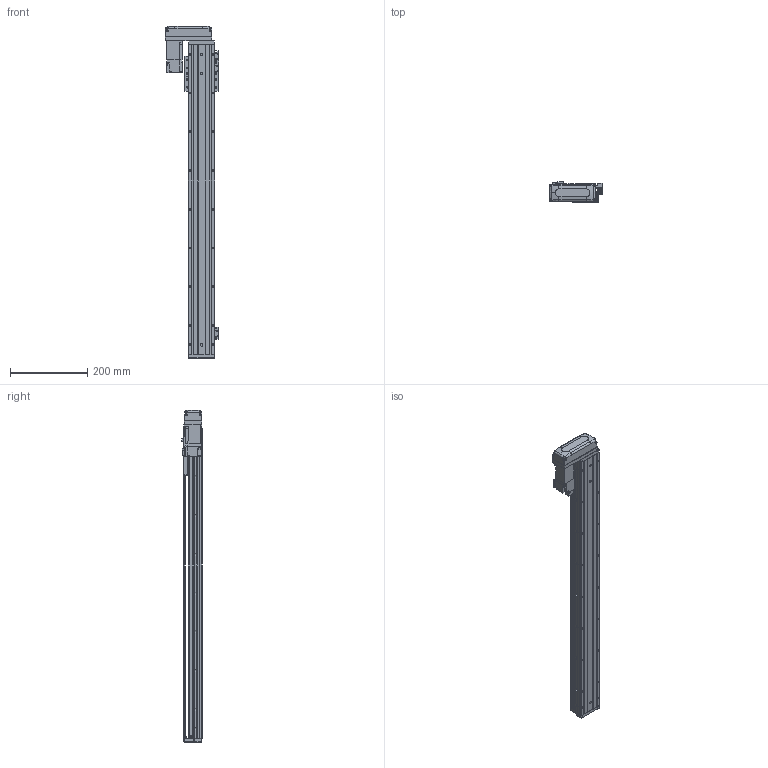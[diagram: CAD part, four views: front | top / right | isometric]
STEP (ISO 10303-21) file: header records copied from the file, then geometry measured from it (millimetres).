
FILE_DESCRIPTION (( 'STEP AP203' ), '1' );
FILE_NAME ('KTHAL60-650-BR-M10-C4L.step', '2022-03-19T08:45:17', ( '微软用户' ), ( '微软中国' ), 'SwSTEP 2.0', 'SolidWorks 2020', '' );
FILE_SCHEMA (( 'CONFIG_CONTROL_DESIGN' ));
Length unit declared in the file: millimetre
Products named in the file (18): GBT 70.3-M3℅6; CTHA60-016; EE_SX911P_R; HG-KR13（三菱）; KTHA60-001_800; CTHA60-017; CTHA60-015-2_CTHA60-015-2; KTHLA60-002; CTHA60-021; CTHA60-033; KTHA60-004; GBT 70.1-M4×16; GBT 70.1-M3×15; KTHA60-005; GBT77-2000M3-3; KTHAL60-650-BR-M10-C4L; GB¨uT 70.2-M3¡Á5_M3¡Á6; GBT 70.1-M3℅6
Assembly tree (51 placements, depth 2):
  KTHAL60-650-BR-M10-C4L
    KTHA60-001_800
    KTHLA60-002
    KTHA60-004
    KTHA60-005
    GB¨uT 70.2-M3¡Á5_M3¡Á6  x5
    GBT 70.3-M3℅6  x4
    EE_SX911P_R  x3
    CTHA60-017  x3
    CTHA60-021  x2
    GBT 70.1-M4×16  x10
    GBT77-2000M3-3  x6
    GBT 70.1-M3℅6  x6
    CTHA60-016
    HG-KR13（三菱）
    CTHA60-015-2_CTHA60-015-2
    CTHA60-033
    GBT 70.1-M3×15  x4
Bounding box: 137.82 x 52.3 x 857 mm (x, y, z)
Volume: 1779933.2 mm3; surface area: 440205 mm2
Topology: 54 solids, 54 shells, 2335 faces, 5555 edges, 3413 vertices
Faces by surface type: plane 1336, cylinder 571, cone 290, torus 98, bspline 26, sphere 14
Entity records: 41285 total; most frequent: CARTESIAN_POINT 7784, DIRECTION 6463, ORIENTED_EDGE 6254, EDGE_CURVE 3127, AXIS2_PLACEMENT_3D 2159, VECTOR 2145, LINE 2145, VERTEX_POINT 1962
